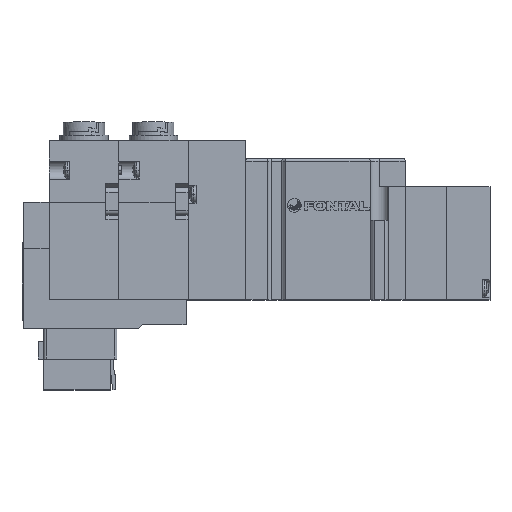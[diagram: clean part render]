
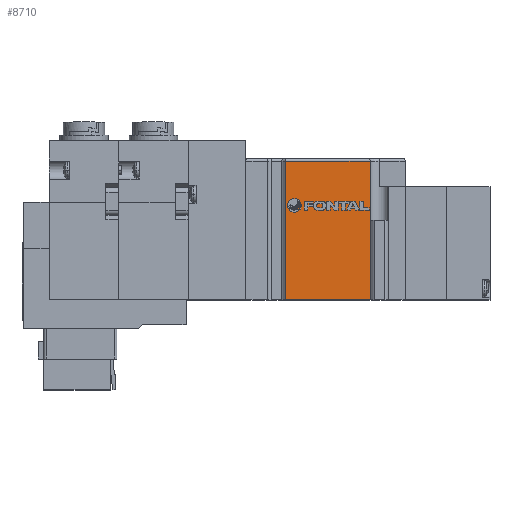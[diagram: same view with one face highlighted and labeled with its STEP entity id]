
A CAD part, top view. The second image highlights one B-rep face of the part: STEP entity #8710.
In plain terms, the highlighted planar face has unit normal (0, 0, 1).
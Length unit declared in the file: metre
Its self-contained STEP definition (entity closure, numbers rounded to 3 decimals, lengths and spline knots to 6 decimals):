
#180 = VECTOR ( 'NONE', #911, 1. ) ;
#381 = DIRECTION ( 'NONE',  ( -1., 0., 0. ) ) ;
#747 = DIRECTION ( 'NONE',  ( 0., 1., 0. ) ) ;
#911 = DIRECTION ( 'NONE',  ( 0., -1., 0. ) ) ;
#1072 = VECTOR ( 'NONE', #381, 1. ) ;
#1142 = ORIENTED_EDGE ( 'NONE', *, *, #3418, .F. ) ;
#1406 = DIRECTION ( 'NONE',  ( 1., 0., 0. ) ) ;
#1837 = LINE ( 'NONE', #13910, #11885 ) ;
#2261 = EDGE_CURVE ( 'NONE', #4212, #5998, #7469, .T. ) ;
#2740 = CARTESIAN_POINT ( 'NONE',  ( 0.0105, 0.0155, 0.005 ) ) ;
#3418 = EDGE_CURVE ( 'NONE', #7609, #4212, #5802, .T. ) ;
#3442 = CARTESIAN_POINT ( 'NONE',  ( 0.008768, 0., 0.005 ) ) ;
#4212 = VERTEX_POINT ( 'NONE', #9939 ) ;
#4693 = PLANE ( 'NONE',  #5385 ) ;
#4750 = DIRECTION ( 'NONE',  ( -1., 0., 0. ) ) ;
#5255 = VERTEX_POINT ( 'NONE', #8022 ) ;
#5385 = AXIS2_PLACEMENT_3D ( 'NONE', #3442, #12636, #4750 ) ;
#5434 = EDGE_CURVE ( 'NONE', #5255, #14066, #7196, .T. ) ;
#5802 = LINE ( 'NONE', #2740, #16338 ) ;
#5994 = ORIENTED_EDGE ( 'NONE', *, *, #2261, .F. ) ;
#5998 = VERTEX_POINT ( 'NONE', #16326 ) ;
#6525 = EDGE_CURVE ( 'NONE', #16038, #14066, #6749, .T. ) ;
#6749 = LINE ( 'NONE', #9424, #1072 ) ;
#7196 = LINE ( 'NONE', #7202, #13843 ) ;
#7202 = CARTESIAN_POINT ( 'NONE',  ( -0.007768, 0.0135, 0.005 ) ) ;
#7469 = LINE ( 'NONE', #13998, #180 ) ;
#7609 = VERTEX_POINT ( 'NONE', #8617 ) ;
#8022 = CARTESIAN_POINT ( 'NONE',  ( -0.007768, 0., 0.005 ) ) ;
#8617 = CARTESIAN_POINT ( 'NONE',  ( 0.0087, 0.0155, 0.005 ) ) ;
#8710 = ADVANCED_FACE ( 'NONE', ( #15171 ), #4693, .F. ) ;
#9154 = DIRECTION ( 'NONE',  ( -1., 0., 0. ) ) ;
#9424 = CARTESIAN_POINT ( 'NONE',  ( 0.000466, 0.027, 0.005 ) ) ;
#9893 = CARTESIAN_POINT ( 'NONE',  ( -0.007768, 0.027, 0.005 ) ) ;
#9939 = CARTESIAN_POINT ( 'NONE',  ( 0.008768, 0.0155, 0.005 ) ) ;
#11064 = EDGE_CURVE ( 'NONE', #5998, #5255, #15130, .T. ) ;
#11607 = VECTOR ( 'NONE', #9154, 1. ) ;
#11878 = CARTESIAN_POINT ( 'NONE',  ( 0.0005, 0., 0.005 ) ) ;
#11885 = VECTOR ( 'NONE', #16541, 1. ) ;
#12634 = CARTESIAN_POINT ( 'NONE',  ( 0.0087, 0.027, 0.005 ) ) ;
#12636 = DIRECTION ( 'NONE',  ( 0., 0., -1. ) ) ;
#13808 = EDGE_LOOP ( 'NONE', ( #14181, #15312, #16936, #5994, #1142, #15966 ) ) ;
#13843 = VECTOR ( 'NONE', #747, 1. ) ;
#13910 = CARTESIAN_POINT ( 'NONE',  ( 0.0087, 0.0135, 0.005 ) ) ;
#13998 = CARTESIAN_POINT ( 'NONE',  ( 0.008768, 0.0135, 0.005 ) ) ;
#14066 = VERTEX_POINT ( 'NONE', #9893 ) ;
#14181 = ORIENTED_EDGE ( 'NONE', *, *, #6525, .T. ) ;
#15130 = LINE ( 'NONE', #11878, #11607 ) ;
#15171 = FACE_OUTER_BOUND ( 'NONE', #13808, .T. ) ;
#15312 = ORIENTED_EDGE ( 'NONE', *, *, #5434, .F. ) ;
#15966 = ORIENTED_EDGE ( 'NONE', *, *, #15976, .F. ) ;
#15976 = EDGE_CURVE ( 'NONE', #16038, #7609, #1837, .T. ) ;
#16038 = VERTEX_POINT ( 'NONE', #12634 ) ;
#16326 = CARTESIAN_POINT ( 'NONE',  ( 0.008768, 0., 0.005 ) ) ;
#16338 = VECTOR ( 'NONE', #1406, 1. ) ;
#16541 = DIRECTION ( 'NONE',  ( 0., -1., 0. ) ) ;
#16936 = ORIENTED_EDGE ( 'NONE', *, *, #11064, .F. ) ;
